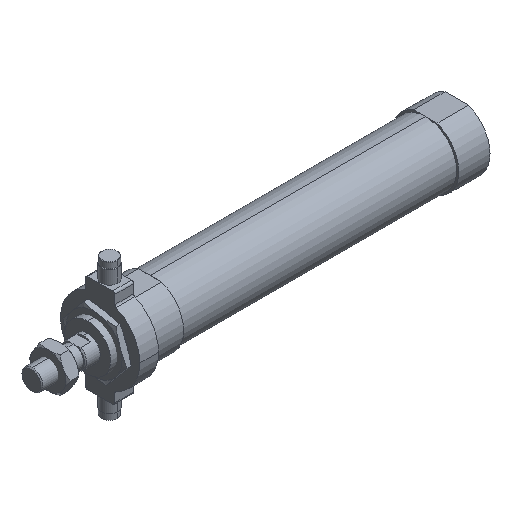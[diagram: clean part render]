
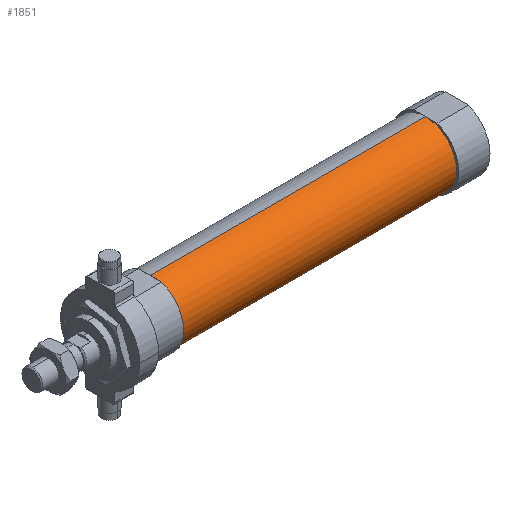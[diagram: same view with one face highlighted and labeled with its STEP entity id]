
A CAD part, isometric view. The second image highlights one B-rep face of the part: STEP entity #1851.
In plain terms, the highlighted cylindrical face has radius 15 mm (diameter 30 mm), a partial arc.
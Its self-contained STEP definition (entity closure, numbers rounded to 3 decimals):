
#440 = CARTESIAN_POINT ( 'NONE',  ( -6.469, 0., 0. ) ) ;
#530 = CARTESIAN_POINT ( 'NONE',  ( 189., 0., 0. ) ) ;
#616 = DIRECTION ( 'NONE',  ( -1., 0., 0. ) ) ;
#742 = AXIS2_PLACEMENT_3D ( 'NONE', #530, #2248, #864 ) ;
#824 = DIRECTION ( 'NONE',  ( 0., 0., 1. ) ) ;
#844 = EDGE_CURVE ( 'NONE', #3353, #2300, #3946, .T. ) ;
#864 = DIRECTION ( 'NONE',  ( 0., 0., 1. ) ) ;
#1068 = CIRCLE ( 'NONE', #1132, 15. ) ;
#1132 = AXIS2_PLACEMENT_3D ( 'NONE', #1517, #1836, #824 ) ;
#1261 = VECTOR ( 'NONE', #1640, 1000. ) ;
#1386 = ORIENTED_EDGE ( 'NONE', *, *, #3929, .T. ) ;
#1458 = DIRECTION ( 'NONE',  ( 0., 0., 1. ) ) ;
#1517 = CARTESIAN_POINT ( 'NONE',  ( 57., 0., 0. ) ) ;
#1640 = DIRECTION ( 'NONE',  ( -1., 0., 0. ) ) ;
#1666 = FACE_OUTER_BOUND ( 'NONE', #2585, .T. ) ;
#1836 = DIRECTION ( 'NONE',  ( -1., 0., 0. ) ) ;
#1851 = ADVANCED_FACE ( 'NONE', ( #1666 ), #3384, .T. ) ;
#1921 = CIRCLE ( 'NONE', #742, 15. ) ;
#2087 = VERTEX_POINT ( 'NONE', #3583 ) ;
#2099 = EDGE_CURVE ( 'NONE', #2300, #2926, #1068, .T. ) ;
#2155 = DIRECTION ( 'NONE',  ( -1., 0., 0. ) ) ;
#2248 = DIRECTION ( 'NONE',  ( -1., 0., 0. ) ) ;
#2270 = ORIENTED_EDGE ( 'NONE', *, *, #2099, .F. ) ;
#2300 = VERTEX_POINT ( 'NONE', #4069 ) ;
#2497 = ORIENTED_EDGE ( 'NONE', *, *, #3215, .T. ) ;
#2585 = EDGE_LOOP ( 'NONE', ( #2802, #2497, #1386, #2270 ) ) ;
#2642 = CARTESIAN_POINT ( 'NONE',  ( -6.469, 0., 15. ) ) ;
#2802 = ORIENTED_EDGE ( 'NONE', *, *, #844, .F. ) ;
#2872 = LINE ( 'NONE', #2642, #1261 ) ;
#2926 = VERTEX_POINT ( 'NONE', #3703 ) ;
#2966 = AXIS2_PLACEMENT_3D ( 'NONE', #440, #2155, #1458 ) ;
#3029 = VECTOR ( 'NONE', #616, 1000. ) ;
#3215 = EDGE_CURVE ( 'NONE', #3353, #2087, #1921, .T. ) ;
#3353 = VERTEX_POINT ( 'NONE', #3908 ) ;
#3384 = CYLINDRICAL_SURFACE ( 'NONE', #2966, 15. ) ;
#3583 = CARTESIAN_POINT ( 'NONE',  ( 189., 0., 15. ) ) ;
#3703 = CARTESIAN_POINT ( 'NONE',  ( 57., 0., 15. ) ) ;
#3908 = CARTESIAN_POINT ( 'NONE',  ( 189., 0., -15. ) ) ;
#3929 = EDGE_CURVE ( 'NONE', #2087, #2926, #2872, .T. ) ;
#3946 = LINE ( 'NONE', #4014, #3029 ) ;
#4014 = CARTESIAN_POINT ( 'NONE',  ( -6.469, 0., -15. ) ) ;
#4069 = CARTESIAN_POINT ( 'NONE',  ( 57., 0., -15. ) ) ;
